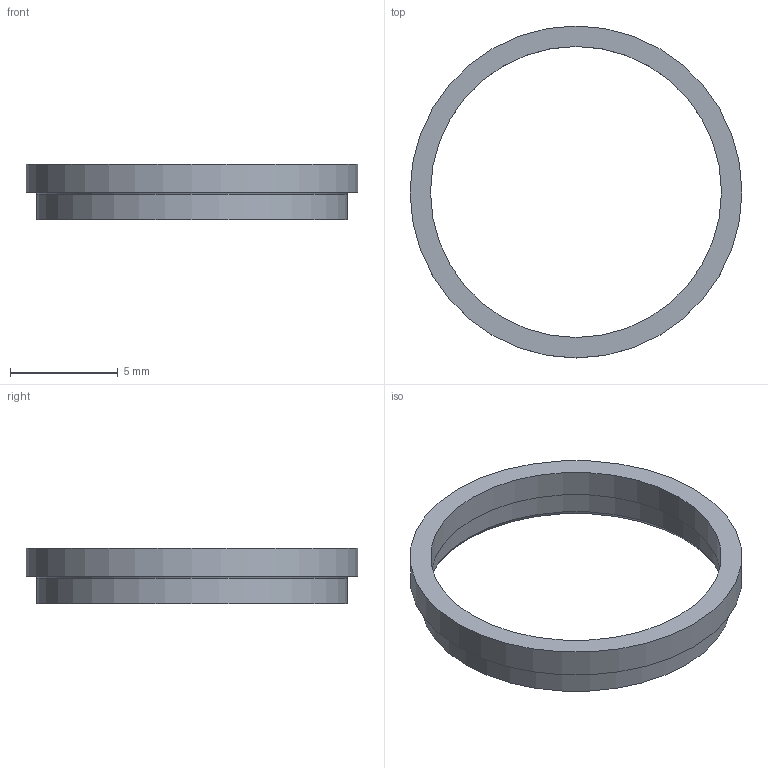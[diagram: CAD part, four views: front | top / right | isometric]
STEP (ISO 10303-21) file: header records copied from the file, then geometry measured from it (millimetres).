
FILE_DESCRIPTION(/* description */ (''),/* implementation_level */ '2;1');
FILE_NAME(/* name */ '16GPT_flange_a_416.8890.01.stp',/* time_stamp */ '2024-11-12T10:40:19+01:00',/* author */ ('DR. FRITZ FAULHABER GmbH & Co. KG'),/* organization */ ('DR. FRITZ FAULHABER GmbH & Co. KG'),/* preprocessor_version */ 'ST-DEVELOPER v19.3',/* originating_system */ 'SIEMENS PLM Software NX2212.4000',/* authorisation */ '');
FILE_SCHEMA (('AUTOMOTIVE_DESIGN { 1 0 10303 214 3 1 1 1 }'));
Length unit declared in the file: millimetre
Products named in the file (1): C_objects
Bounding box: 15.4 x 15.4 x 2.58 mm (x, y, z)
Volume: 66.8 mm3; surface area: 313.4 mm2
Topology: 1 solids, 1 shells, 10 faces, 16 edges, 10 vertices
Faces by surface type: cylinder 4, plane 4, torus 1, cone 1
Full cylindrical faces by diameter (mm): 13.5 x1, 14 x1, 14.4 x1, 15.4 x1
Entity records: 240 total; most frequent: DIRECTION 42, CARTESIAN_POINT 31, AXIS2_PLACEMENT_3D 21, FACE_BOUND 20, EDGE_LOOP 20, ORIENTED_EDGE 20, ADVANCED_FACE 10, VERTEX_POINT 10
